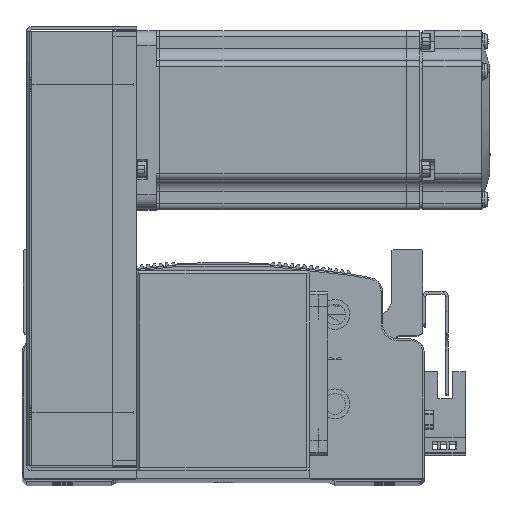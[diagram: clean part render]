
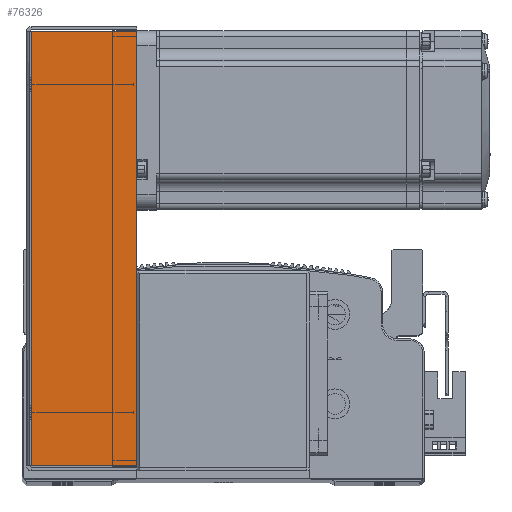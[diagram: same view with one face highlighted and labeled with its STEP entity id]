
A CAD part, top view. The second image highlights one B-rep face of the part: STEP entity #76326.
In plain terms, the highlighted planar face has unit normal (0, 0, 1).
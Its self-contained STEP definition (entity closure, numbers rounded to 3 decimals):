
#2864 = DIRECTION ( 'NONE',  ( 0., 0., -1. ) ) ;
#2877 = PLANE ( 'NONE',  #67917 ) ;
#2902 = CARTESIAN_POINT ( 'NONE',  ( 0., 0., 34.5 ) ) ;
#2904 = DIRECTION ( 'NONE',  ( -1., 0., 0. ) ) ;
#20352 = CARTESIAN_POINT ( 'NONE',  ( 0., 36., 34.5 ) ) ;
#20358 = DIRECTION ( 'NONE',  ( -1., 0., 0. ) ) ;
#20610 = DIRECTION ( 'NONE',  ( 0., 1., 0. ) ) ;
#20613 = DIRECTION ( 'NONE',  ( -1., 0., 0. ) ) ;
#20624 = CARTESIAN_POINT ( 'NONE',  ( 72.793, 0., 34.5 ) ) ;
#20638 = CARTESIAN_POINT ( 'NONE',  ( -74.5, 0.737, 34.5 ) ) ;
#20647 = DIRECTION ( 'NONE',  ( 0., 1., 0. ) ) ;
#20668 = CARTESIAN_POINT ( 'NONE',  ( -72.793, 0., 34.5 ) ) ;
#27257 = EDGE_CURVE ( 'NONE', #69756, #69755, #34816, .T. ) ;
#27509 = EDGE_CURVE ( 'NONE', #69754, #69756, #35016, .T. ) ;
#27533 = EDGE_CURVE ( 'NONE', #69754, #69751, #35064, .T. ) ;
#27552 = EDGE_CURVE ( 'NONE', #69751, #69755, #35108, .T. ) ;
#34816 = LINE ( 'NONE', #20352, #34867 ) ;
#34867 = VECTOR ( 'NONE', #20358, 1000. ) ;
#35016 = LINE ( 'NONE', #20624, #35018 ) ;
#35018 = VECTOR ( 'NONE', #20610, 1000. ) ;
#35021 = VECTOR ( 'NONE', #20613, 1000. ) ;
#35064 = LINE ( 'NONE', #20638, #35021 ) ;
#35067 = VECTOR ( 'NONE', #20647, 1000. ) ;
#35108 = LINE ( 'NONE', #20668, #35067 ) ;
#60187 = FACE_OUTER_BOUND ( 'NONE', #68301, .T. ) ;
#67917 = AXIS2_PLACEMENT_3D ( 'NONE', #2902, #2864, #2904 ) ;
#68301 = EDGE_LOOP ( 'NONE', ( #75795, #75936, #75895, #75943 ) ) ;
#69751 = VERTEX_POINT ( 'NONE', #71341 ) ;
#69754 = VERTEX_POINT ( 'NONE', #71372 ) ;
#69755 = VERTEX_POINT ( 'NONE', #71374 ) ;
#69756 = VERTEX_POINT ( 'NONE', #71339 ) ;
#71339 = CARTESIAN_POINT ( 'NONE',  ( 72.793, 36., 34.5 ) ) ;
#71341 = CARTESIAN_POINT ( 'NONE',  ( -72.793, 0.737, 34.5 ) ) ;
#71372 = CARTESIAN_POINT ( 'NONE',  ( 72.793, 0.737, 34.5 ) ) ;
#71374 = CARTESIAN_POINT ( 'NONE',  ( -72.793, 36., 34.5 ) ) ;
#75795 = ORIENTED_EDGE ( 'NONE', *, *, #27533, .F. ) ;
#75895 = ORIENTED_EDGE ( 'NONE', *, *, #27257, .T. ) ;
#75936 = ORIENTED_EDGE ( 'NONE', *, *, #27509, .T. ) ;
#75943 = ORIENTED_EDGE ( 'NONE', *, *, #27552, .F. ) ;
#76326 = ADVANCED_FACE ( 'NONE', ( #60187 ), #2877, .F. ) ;
